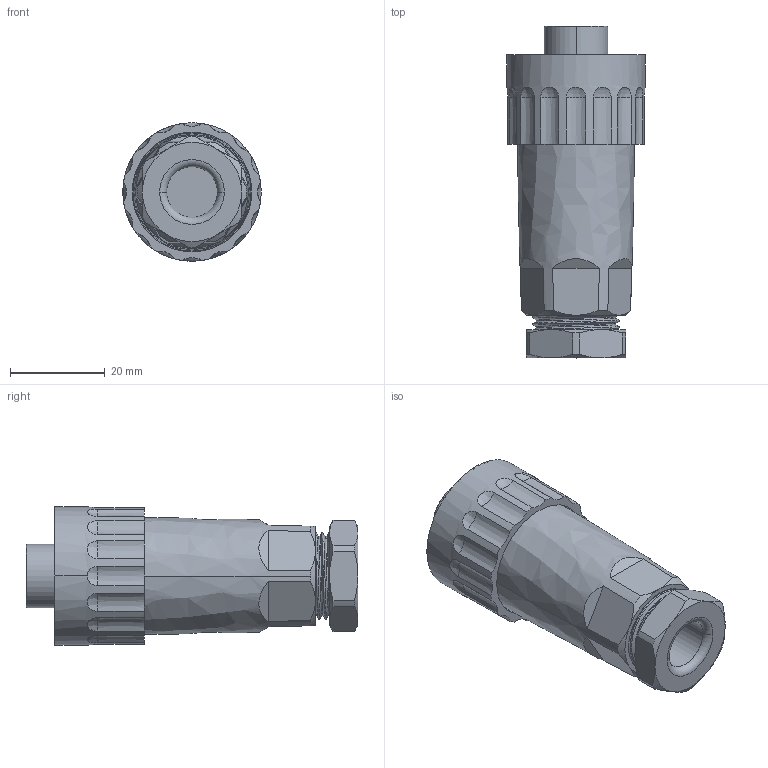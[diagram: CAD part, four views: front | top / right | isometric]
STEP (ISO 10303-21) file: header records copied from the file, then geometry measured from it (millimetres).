
FILE_DESCRIPTION((''),'2;1');
FILE_NAME('WA22K4ZE2','2017-05-19T',('Administrator'),(''),'PRO/ENGINEER BY PARAMETRIC TECHNOLOGY CORPORATION, 2015240','PRO/ENGINEER BY PARAMETRIC TECHNOLOGY CORPORATION, 2015240','');
FILE_SCHEMA(('CONFIG_CONTROL_DESIGN'));
Length unit declared in the file: millimetre
Products named in the file (1): WA22K4ZE2
Bounding box: 29.3 x 70.2 x 29.3 mm (x, y, z)
Volume: 21014.8 mm3; surface area: 13990.7 mm2
Topology: 1 solids, 4 shells, 732 faces, 1992 edges, 1331 vertices
Faces by surface type: plane 413, cylinder 111, extrusion 96, cone 67, bspline 38, torus 5, sphere 2
Entity records: 32950 total; most frequent: CARTESIAN_POINT 14955, ORIENTED_EDGE 3967, DIRECTION 3237, EDGE_CURVE 1992, VERTEX_POINT 1331, VECTOR 1311, LINE 1215, AXIS2_PLACEMENT_3D 963
